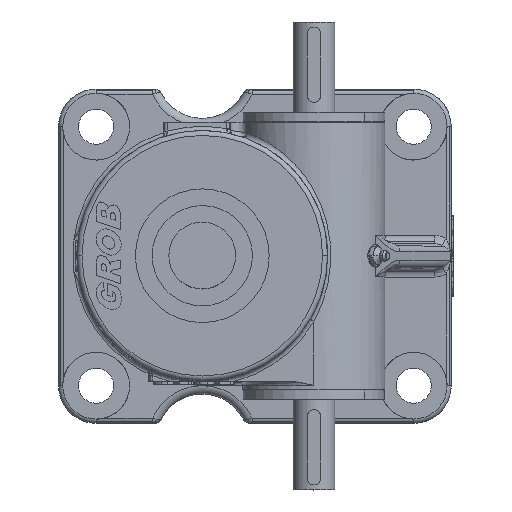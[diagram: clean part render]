
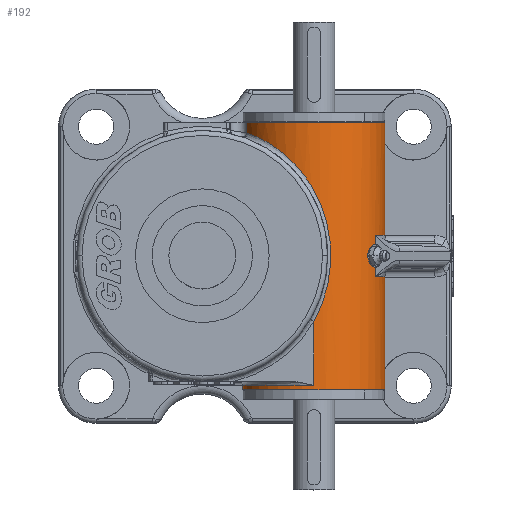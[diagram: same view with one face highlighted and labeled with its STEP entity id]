
A CAD part, top view. The second image highlights one B-rep face of the part: STEP entity #192.
In plain terms, the highlighted cylindrical face has radius 42.5 mm (diameter 85 mm), a partial arc.
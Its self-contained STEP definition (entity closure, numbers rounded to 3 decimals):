
#192=ADVANCED_FACE('',(#990),#991,.T.);
#990=FACE_OUTER_BOUND('',#2558,.T.);
#991=CYLINDRICAL_SURFACE('',#2559,42.5);
#2558=EDGE_LOOP('',(#6707,#6708,#6709,#6710,#6711,#6712,#6713,#6714,#6715,#6716,#6717,#6718,#6719,#6720));
#2559=AXIS2_PLACEMENT_3D('',#6721,#6722,#6723);
#6707=ORIENTED_EDGE('',*,*,#11932,.F.);
#6708=ORIENTED_EDGE('',*,*,#11933,.T.);
#6709=ORIENTED_EDGE('',*,*,#11934,.T.);
#6710=ORIENTED_EDGE('',*,*,#11935,.F.);
#6711=ORIENTED_EDGE('',*,*,#11936,.T.);
#6712=ORIENTED_EDGE('',*,*,#11937,.F.);
#6713=ORIENTED_EDGE('',*,*,#11925,.F.);
#6714=ORIENTED_EDGE('',*,*,#11938,.T.);
#6715=ORIENTED_EDGE('',*,*,#11923,.F.);
#6716=ORIENTED_EDGE('',*,*,#11939,.F.);
#6717=ORIENTED_EDGE('',*,*,#11940,.F.);
#6718=ORIENTED_EDGE('',*,*,#11941,.T.);
#6719=ORIENTED_EDGE('',*,*,#11942,.F.);
#6720=ORIENTED_EDGE('',*,*,#11943,.F.);
#6721=CARTESIAN_POINT('',(66.78,0.,70.0));
#6722=DIRECTION('',(0.,1.0,0.));
#6723=DIRECTION('',(1.0,0.,0.));
#11923=EDGE_CURVE('',#14160,#14161,#14162,.T.);
#11925=EDGE_CURVE('',#14163,#14165,#14166,.T.);
#11932=EDGE_CURVE('',#14177,#14178,#14179,.T.);
#11933=EDGE_CURVE('',#14177,#14180,#14181,.T.);
#11934=EDGE_CURVE('',#14180,#14182,#14183,.T.);
#11935=EDGE_CURVE('',#14184,#14182,#14185,.T.);
#11936=EDGE_CURVE('',#14184,#14186,#14187,.T.);
#11937=EDGE_CURVE('',#14165,#14186,#14188,.T.);
#11938=EDGE_CURVE('',#14163,#14161,#14189,.T.);
#11939=EDGE_CURVE('',#14190,#14160,#14191,.T.);
#11940=EDGE_CURVE('',#14192,#14190,#14193,.T.);
#11941=EDGE_CURVE('',#14192,#14194,#14195,.T.);
#11942=EDGE_CURVE('',#14196,#14194,#14197,.T.);
#11943=EDGE_CURVE('',#14178,#14196,#14198,.T.);
#14160=VERTEX_POINT('',#17756);
#14161=VERTEX_POINT('',#17757);
#14162=LINE('',#17758,#17759);
#14163=VERTEX_POINT('',#17760);
#14165=VERTEX_POINT('',#17762);
#14166=LINE('',#17763,#17764);
#14177=VERTEX_POINT('',#17790);
#14178=VERTEX_POINT('',#17791);
#14179=LINE('',#17792,#17793);
#14180=VERTEX_POINT('',#17794);
#14181=CIRCLE('',#17795,42.5);
#14182=VERTEX_POINT('',#17796);
#14183=LINE('',#17797,#17798);
#14184=VERTEX_POINT('',#17799);
#14185=B_SPLINE_CURVE_WITH_KNOTS('',3,(#17800,#17801,#17802,#17803,#17804,#17805,#17806,#17807,#17808,#17809,#17810,#17811,#17812,#17813,#17814,#17815,#17816),.UNSPECIFIED.,.F.,.F.,(4,1,1,1,1,1,1,1,1,1,1,1,1,1,4),(0.,2.145,3.217,4.289,5.362,6.434,8.579,8.936,9.294,10.366,10.723,11.796,12.868,13.941,15.013),.UNSPECIFIED.);
#14186=VERTEX_POINT('',#17817);
#14187=LINE('',#17818,#17819);
#14188=CIRCLE('',#17820,42.5);
#14189=CIRCLE('',#17821,42.5);
#14190=VERTEX_POINT('',#17822);
#14191=CIRCLE('',#17823,42.5);
#14192=VERTEX_POINT('',#17824);
#14193=LINE('',#17825,#17826);
#14194=VERTEX_POINT('',#17827);
#14195=B_SPLINE_CURVE_WITH_KNOTS('',3,(#17828,#17829,#17830,#17831,#17832,#17833,#17834,#17835,#17836,#17837,#17838,#17839,#17840,#17841,#17842,#17843,#17844,#17845),.UNSPECIFIED.,.F.,.F.,(4,2,2,2,2,2,2,2,4),(1.057,1.321,1.585,1.849,2.114,2.378,2.642,2.906,3.17),.UNSPECIFIED.);
#14196=VERTEX_POINT('',#17846);
#14197=LINE('',#17847,#17848);
#14198=CIRCLE('',#17849,42.5);
#17756=CARTESIAN_POINT('',(109.28,-12.5,70.0));
#17757=CARTESIAN_POINT('',(109.28,-80.0,70.0));
#17758=CARTESIAN_POINT('',(109.28,0.,70.0));
#17759=VECTOR('',#22914,1.0);
#17760=CARTESIAN_POINT('',(24.28,-80.0,70.0));
#17762=CARTESIAN_POINT('',(24.28,-77.5,70.0));
#17763=CARTESIAN_POINT('',(24.28,0.,70.0));
#17764=VECTOR('',#22918,1.0);
#17790=CARTESIAN_POINT('',(109.28,80.0,70.0));
#17791=CARTESIAN_POINT('',(109.28,12.5,70.0));
#17792=CARTESIAN_POINT('',(109.28,0.,70.0));
#17793=VECTOR('',#22928,1.0);
#17794=CARTESIAN_POINT('',(26.517,80.0,83.606));
#17795=AXIS2_PLACEMENT_3D('',#22929,#22930,#22931);
#17796=CARTESIAN_POINT('',(26.517,73.642,83.606));
#17797=CARTESIAN_POINT('',(26.517,80.0,83.606));
#17798=VECTOR('',#22932,0.636);
#17799=CARTESIAN_POINT('',(66.78,-39.328,112.5));
#17800=CARTESIAN_POINT('',(66.78,-39.328,112.5));
#17801=CARTESIAN_POINT('',(70.206,-33.168,112.5));
#17802=CARTESIAN_POINT('',(74.166,-23.051,111.902));
#17803=CARTESIAN_POINT('',(76.646,-8.987,111.345));
#17804=CARTESIAN_POINT('',(77.125,1.887,111.219));
#17805=CARTESIAN_POINT('',(76.158,12.65,111.464));
#17806=CARTESIAN_POINT('',(73.043,26.613,112.107));
#17807=CARTESIAN_POINT('',(68.122,37.648,112.679));
#17808=CARTESIAN_POINT('',(63.006,45.481,112.348));
#17809=CARTESIAN_POINT('',(59.582,50.257,111.964));
#17810=CARTESIAN_POINT('',(55.747,54.662,111.155));
#17811=CARTESIAN_POINT('',(50.096,60.096,109.214));
#17812=CARTESIAN_POINT('',(44.113,64.866,106.323));
#17813=CARTESIAN_POINT('',(36.745,69.316,100.577));
#17814=CARTESIAN_POINT('',(30.517,72.2,92.914));
#17815=CARTESIAN_POINT('',(27.592,73.269,86.787));
#17816=CARTESIAN_POINT('',(26.517,73.642,83.606));
#17817=CARTESIAN_POINT('',(66.78,-77.5,112.5));
#17818=CARTESIAN_POINT('',(66.78,-39.328,112.5));
#17819=VECTOR('',#22933,3.817);
#17820=AXIS2_PLACEMENT_3D('',#22934,#22935,#22936);
#17821=AXIS2_PLACEMENT_3D('',#22937,#22938,#22939);
#17822=CARTESIAN_POINT('',(103.441,-12.5,91.5));
#17823=AXIS2_PLACEMENT_3D('',#22940,#22941,#22942);
#17824=CARTESIAN_POINT('',(103.441,-7.,91.5));
#17825=CARTESIAN_POINT('',(103.441,-7.,91.5));
#17826=VECTOR('',#22943,0.55);
#17827=CARTESIAN_POINT('',(103.441,7.,91.5));
#17828=CARTESIAN_POINT('',(103.441,-7.,91.5));
#17829=CARTESIAN_POINT('',(102.995,-7.,92.26));
#17830=CARTESIAN_POINT('',(102.494,-6.824,93.054));
#17831=CARTESIAN_POINT('',(101.528,-6.109,94.486));
#17832=CARTESIAN_POINT('',(101.064,-5.57,95.125));
#17833=CARTESIAN_POINT('',(100.31,-4.329,96.122));
#17834=CARTESIAN_POINT('',(99.971,-3.543,96.547));
#17835=CARTESIAN_POINT('',(99.514,-1.819,97.108));
#17836=CARTESIAN_POINT('',(99.399,-0.881,97.245));
#17837=CARTESIAN_POINT('',(99.399,0.881,97.245));
#17838=CARTESIAN_POINT('',(99.514,1.819,97.108));
#17839=CARTESIAN_POINT('',(99.971,3.543,96.547));
#17840=CARTESIAN_POINT('',(100.31,4.329,96.122));
#17841=CARTESIAN_POINT('',(101.064,5.57,95.125));
#17842=CARTESIAN_POINT('',(101.528,6.109,94.486));
#17843=CARTESIAN_POINT('',(102.494,6.824,93.054));
#17844=CARTESIAN_POINT('',(102.995,7.,92.26));
#17845=CARTESIAN_POINT('',(103.441,7.,91.5));
#17846=CARTESIAN_POINT('',(103.441,12.5,91.5));
#17847=CARTESIAN_POINT('',(103.441,12.5,91.5));
#17848=VECTOR('',#22944,0.55);
#17849=AXIS2_PLACEMENT_3D('',#22945,#22946,#22947);
#22914=DIRECTION('',(0.,-1.0,0.));
#22918=DIRECTION('',(0.,1.0,0.));
#22928=DIRECTION('',(0.,-1.0,0.));
#22929=CARTESIAN_POINT('',(66.78,80.0,70.0));
#22930=DIRECTION('',(0.,-1.0,0.));
#22931=DIRECTION('',(1.0,0.,0.));
#22932=DIRECTION('',(0.,-1.0,0.));
#22933=DIRECTION('',(0.,-1.0,0.));
#22934=CARTESIAN_POINT('',(66.78,-77.5,70.0));
#22935=DIRECTION('',(0.,1.0,0.));
#22936=DIRECTION('',(-0.959,0.,0.285));
#22937=CARTESIAN_POINT('',(66.78,-80.0,70.0));
#22938=DIRECTION('',(0.,1.0,0.));
#22939=DIRECTION('',(1.0,0.,0.));
#22940=CARTESIAN_POINT('',(66.78,-12.5,70.0));
#22941=DIRECTION('',(0.,1.0,0.));
#22942=DIRECTION('',(0.996,0.,-0.085));
#22943=DIRECTION('',(0.,-1.0,0.));
#22944=DIRECTION('',(0.,-1.0,0.));
#22945=CARTESIAN_POINT('',(66.78,12.5,70.0));
#22946=DIRECTION('',(0.,-1.0,0.));
#22947=DIRECTION('',(0.996,0.,-0.085));
